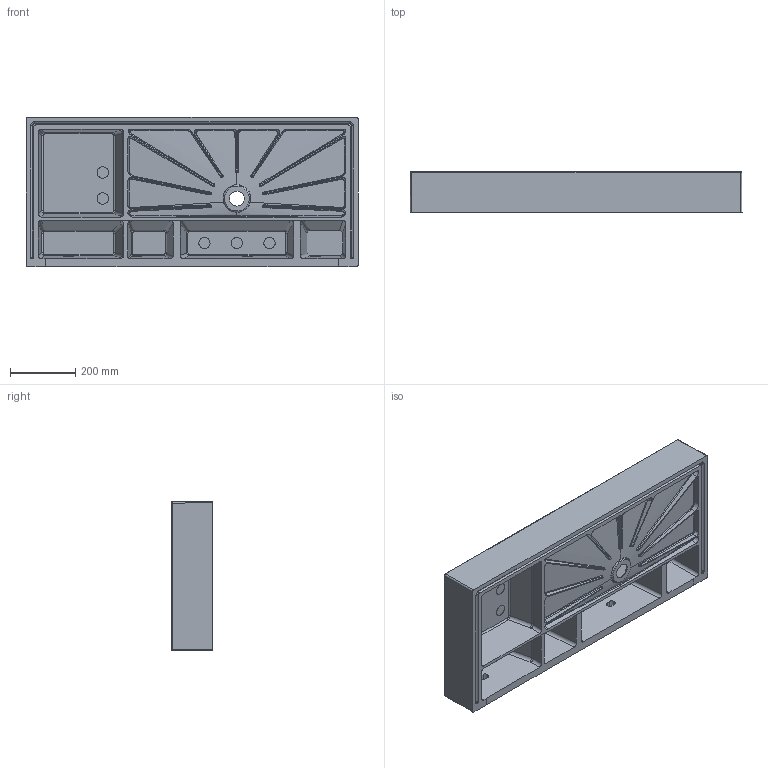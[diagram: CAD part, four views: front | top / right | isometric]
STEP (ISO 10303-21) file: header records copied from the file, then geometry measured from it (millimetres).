
FILE_DESCRIPTION (( 'STEP AP203' ), '1' );
FILE_NAME ('ELLP10246LQ0.STEP', '2019-02-01T10:22:28', ( '' ), ( '' ), 'SwSTEP 2.0', 'SolidWorks 2019', '' );
FILE_SCHEMA (( 'CONFIG_CONTROL_DESIGN' ));
Length unit declared in the file: millimetre
Products named in the file (1): ELLP10246LQ0
Bounding box: 1020.18 x 125 x 460.09 mm (x, y, z)
Volume: 17608572.9 mm3; surface area: 1855628.7 mm2
Topology: 1 solids, 1 shells, 402 faces, 1020 edges, 618 vertices
Faces by surface type: bspline 146, cylinder 146, plane 87, torus 10, sphere 9, cone 4
Entity records: 27885 total; most frequent: CARTESIAN_POINT 19615, ORIENTED_EDGE 2020, DIRECTION 1355, EDGE_CURVE 1010, VERTEX_POINT 618, AXIS2_PLACEMENT_3D 510, EDGE_LOOP 420, ADVANCED_FACE 402
